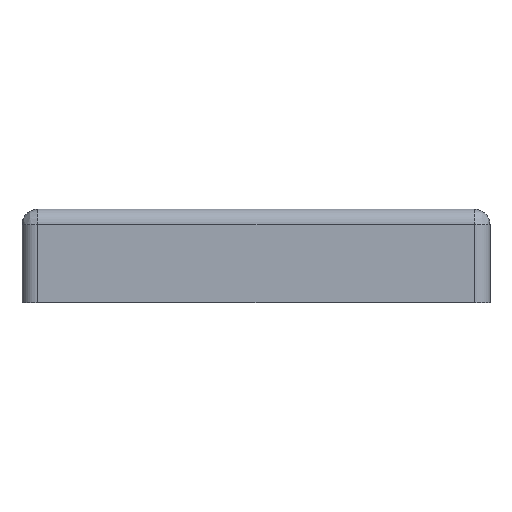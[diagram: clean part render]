
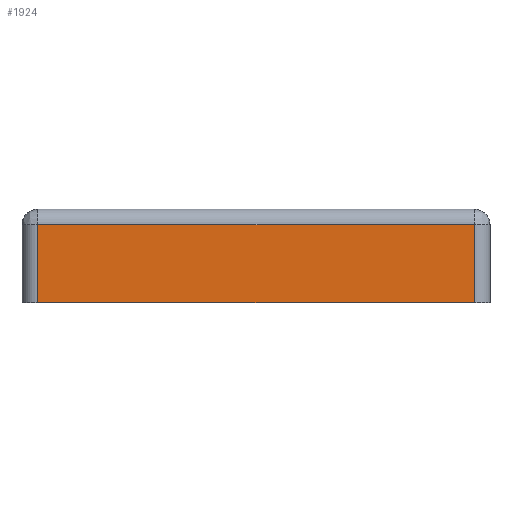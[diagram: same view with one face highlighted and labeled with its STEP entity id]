
A CAD part, front view. The second image highlights one B-rep face of the part: STEP entity #1924.
In plain terms, the highlighted planar face has unit normal (0, -1, 0).
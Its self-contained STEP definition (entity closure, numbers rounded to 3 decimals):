
#193 = DIRECTION ( 'NONE',  ( 1., 0., 0. ) ) ;
#271 = CARTESIAN_POINT ( 'NONE',  ( 28., -30., -2. ) ) ;
#337 = EDGE_CURVE ( 'NONE', #611, #1783, #3427, .T. ) ;
#383 = CARTESIAN_POINT ( 'NONE',  ( -28., -30., -12. ) ) ;
#448 = CARTESIAN_POINT ( 'NONE',  ( -28., -30., -2. ) ) ;
#532 = AXIS2_PLACEMENT_3D ( 'NONE', #3819, #969, #3507 ) ;
#611 = VERTEX_POINT ( 'NONE', #448 ) ;
#781 = CARTESIAN_POINT ( 'NONE',  ( 28., -30., -12. ) ) ;
#969 = DIRECTION ( 'NONE',  ( 0., 1., 0. ) ) ;
#984 = VERTEX_POINT ( 'NONE', #781 ) ;
#1064 = DIRECTION ( 'NONE',  ( -1., 0., 0. ) ) ;
#1407 = CARTESIAN_POINT ( 'NONE',  ( 28., -30., -12. ) ) ;
#1426 = LINE ( 'NONE', #1407, #3983 ) ;
#1462 = CARTESIAN_POINT ( 'NONE',  ( -28., -30., -12. ) ) ;
#1578 = CARTESIAN_POINT ( 'NONE',  ( 28., -30., -12. ) ) ;
#1619 = ORIENTED_EDGE ( 'NONE', *, *, #2230, .F. ) ;
#1776 = ORIENTED_EDGE ( 'NONE', *, *, #2415, .F. ) ;
#1783 = VERTEX_POINT ( 'NONE', #1856 ) ;
#1850 = EDGE_CURVE ( 'NONE', #2001, #611, #3095, .T. ) ;
#1856 = CARTESIAN_POINT ( 'NONE',  ( 28., -30., -2. ) ) ;
#1924 = ADVANCED_FACE ( 'NONE', ( #3233 ), #1925, .F. ) ;
#1925 = PLANE ( 'NONE',  #532 ) ;
#2001 = VERTEX_POINT ( 'NONE', #383 ) ;
#2230 = EDGE_CURVE ( 'NONE', #1783, #984, #2420, .T. ) ;
#2233 = VECTOR ( 'NONE', #193, 1000. ) ;
#2324 = VECTOR ( 'NONE', #3780, 1000. ) ;
#2415 = EDGE_CURVE ( 'NONE', #984, #2001, #1426, .T. ) ;
#2420 = LINE ( 'NONE', #1578, #4071 ) ;
#2684 = EDGE_LOOP ( 'NONE', ( #3707, #3700, #1776, #1619 ) ) ;
#3095 = LINE ( 'NONE', #1462, #2324 ) ;
#3233 = FACE_OUTER_BOUND ( 'NONE', #2684, .T. ) ;
#3427 = LINE ( 'NONE', #271, #2233 ) ;
#3507 = DIRECTION ( 'NONE',  ( 0., 0., 1. ) ) ;
#3700 = ORIENTED_EDGE ( 'NONE', *, *, #1850, .F. ) ;
#3707 = ORIENTED_EDGE ( 'NONE', *, *, #337, .F. ) ;
#3780 = DIRECTION ( 'NONE',  ( 0., 0., 1. ) ) ;
#3819 = CARTESIAN_POINT ( 'NONE',  ( 28., -30., -12. ) ) ;
#3983 = VECTOR ( 'NONE', #1064, 1000. ) ;
#4071 = VECTOR ( 'NONE', #4129, 1000. ) ;
#4129 = DIRECTION ( 'NONE',  ( 0., 0., -1. ) ) ;
